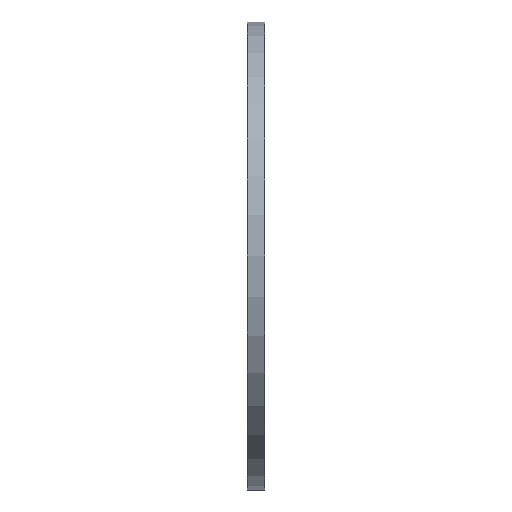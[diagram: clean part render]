
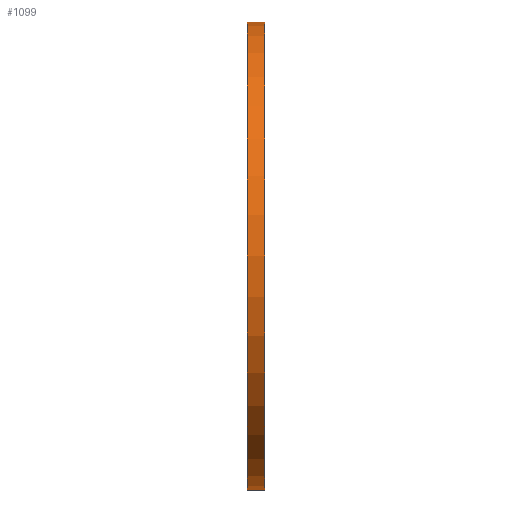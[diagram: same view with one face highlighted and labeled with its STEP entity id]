
A CAD part, left-side view. The second image highlights one B-rep face of the part: STEP entity #1099.
In plain terms, the highlighted cylindrical face has radius 197.5 mm (diameter 395 mm), a partial arc.
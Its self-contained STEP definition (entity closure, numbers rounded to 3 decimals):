
#7 = LINE ( 'NONE', #734, #899 ) ;
#53 = DIRECTION ( 'NONE',  ( 0., 1., 0. ) ) ;
#81 = CARTESIAN_POINT ( 'NONE',  ( 0., 38.545, 197.5 ) ) ;
#104 = AXIS2_PLACEMENT_3D ( 'NONE', #409, #329, #943 ) ;
#107 = VERTEX_POINT ( 'NONE', #853 ) ;
#200 = ORIENTED_EDGE ( 'NONE', *, *, #1111, .T. ) ;
#260 = CARTESIAN_POINT ( 'NONE',  ( 0., 0., -197.5 ) ) ;
#263 = ORIENTED_EDGE ( 'NONE', *, *, #449, .T. ) ;
#279 = DIRECTION ( 'NONE',  ( 0., 1., 0. ) ) ;
#305 = DIRECTION ( 'NONE',  ( 0., 0., 1. ) ) ;
#321 = AXIS2_PLACEMENT_3D ( 'NONE', #589, #53, #305 ) ;
#324 = CYLINDRICAL_SURFACE ( 'NONE', #321, 197.5 ) ;
#327 = AXIS2_PLACEMENT_3D ( 'NONE', #456, #279, #1100 ) ;
#329 = DIRECTION ( 'NONE',  ( 0., 1., 0. ) ) ;
#375 = DIRECTION ( 'NONE',  ( 0., 1., 0. ) ) ;
#409 = CARTESIAN_POINT ( 'NONE',  ( 0., 0., 0. ) ) ;
#446 = ORIENTED_EDGE ( 'NONE', *, *, #826, .F. ) ;
#449 = EDGE_CURVE ( 'NONE', #107, #814, #1022, .T. ) ;
#456 = CARTESIAN_POINT ( 'NONE',  ( 0., 15., 0. ) ) ;
#520 = VECTOR ( 'NONE', #910, 1000. ) ;
#589 = CARTESIAN_POINT ( 'NONE',  ( 0., 38.545, 0. ) ) ;
#634 = CIRCLE ( 'NONE', #104, 197.5 ) ;
#644 = VERTEX_POINT ( 'NONE', #260 ) ;
#650 = CARTESIAN_POINT ( 'NONE',  ( 0., 15., 197.5 ) ) ;
#734 = CARTESIAN_POINT ( 'NONE',  ( 0., 38.545, -197.5 ) ) ;
#784 = EDGE_CURVE ( 'NONE', #1128, #814, #793, .T. ) ;
#793 = CIRCLE ( 'NONE', #327, 197.5 ) ;
#814 = VERTEX_POINT ( 'NONE', #650 ) ;
#826 = EDGE_CURVE ( 'NONE', #644, #1128, #7, .T. ) ;
#853 = CARTESIAN_POINT ( 'NONE',  ( 0., 0., 197.5 ) ) ;
#880 = ORIENTED_EDGE ( 'NONE', *, *, #784, .F. ) ;
#899 = VECTOR ( 'NONE', #375, 1000. ) ;
#910 = DIRECTION ( 'NONE',  ( 0., 1., 0. ) ) ;
#943 = DIRECTION ( 'NONE',  ( 0., 0., 1. ) ) ;
#947 = EDGE_LOOP ( 'NONE', ( #446, #200, #263, #880 ) ) ;
#1022 = LINE ( 'NONE', #81, #520 ) ;
#1047 = CARTESIAN_POINT ( 'NONE',  ( 0., 15., -197.5 ) ) ;
#1099 = ADVANCED_FACE ( 'NONE', ( #1144 ), #324, .T. ) ;
#1100 = DIRECTION ( 'NONE',  ( 0., 0., 1. ) ) ;
#1111 = EDGE_CURVE ( 'NONE', #644, #107, #634, .T. ) ;
#1128 = VERTEX_POINT ( 'NONE', #1047 ) ;
#1144 = FACE_OUTER_BOUND ( 'NONE', #947, .T. ) ;
